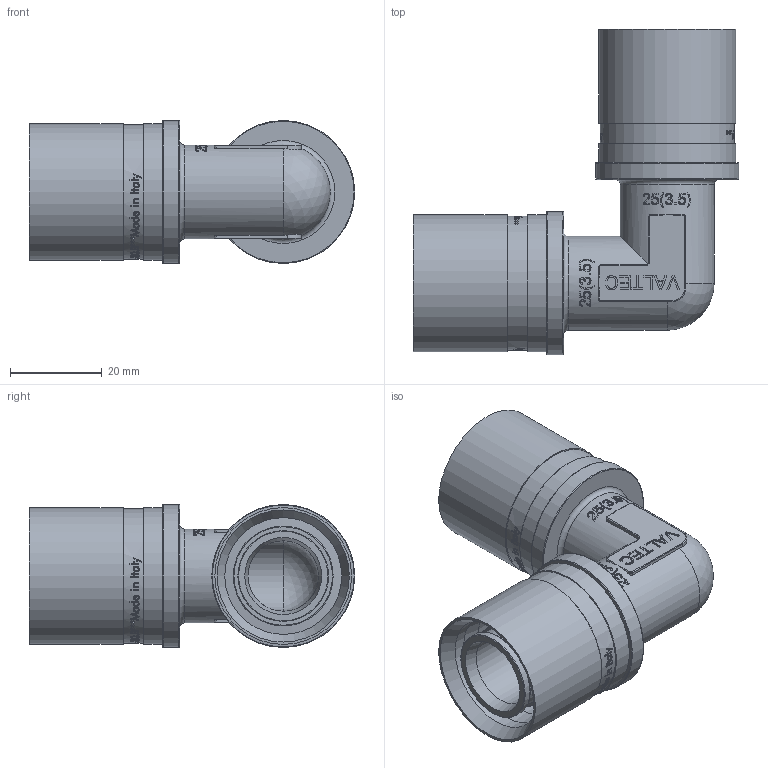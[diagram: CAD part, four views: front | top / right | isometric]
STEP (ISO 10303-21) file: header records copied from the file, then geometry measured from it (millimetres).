
FILE_DESCRIPTION(/* description */ (''),/* implementation_level */ '2;1');
FILE_NAME(/* name */ 'F:\Артём\00000\Работа удаленка\Аксеальные фитинги\VTm.451.BG.002525.stp',/* time_stamp */ '2021-01-27T11:25:12+03:00',/* author */ ('almis'),/* organization */ (''),/* preprocessor_version */ 'ST-DEVELOPER v18',/* originating_system */ 'Autodesk Inventor 2020',/* authorisation */ '');
FILE_SCHEMA (('AUTOMOTIVE_DESIGN { 1 0 10303 214 3 1 1 }'));
Length unit declared in the file: millimetre
Products named in the file (1): VTm.403.BG.001616
Bounding box: 71.01 x 71.01 x 31.2 mm (x, y, z)
Volume: 25991.8 mm3; surface area: 25096.7 mm2
Topology: 1 solids, 1 shells, 1787 faces, 4908 edges, 3290 vertices
Faces by surface type: bspline 894, plane 631, cylinder 190, torus 58, cone 12, sphere 2
Full cylindrical faces by diameter (mm): 15.4 x2, 18.3 x10, 19.8 x8, 20.5 x2, 21.8 x2, 25.5 x4, 29.3 x2, 29.85 x4, 31.2 x2
Entity records: 73273 total; most frequent: CARTESIAN_POINT 33068, ORIENTED_EDGE 9800, DIRECTION 5768, EDGE_CURVE 4900, VERTEX_POINT 3290, LINE 2232, VECTOR 2232, EDGE_LOOP 1964
